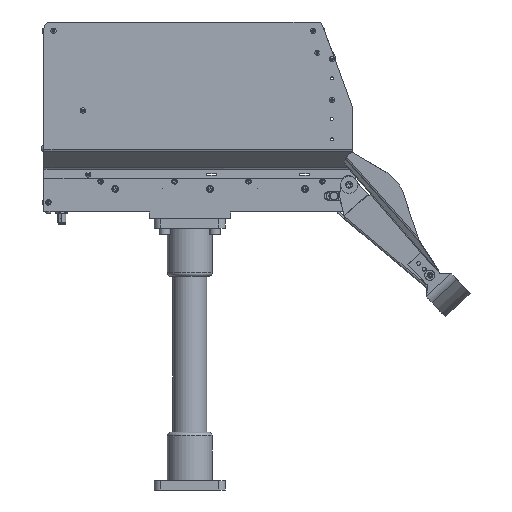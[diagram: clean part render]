
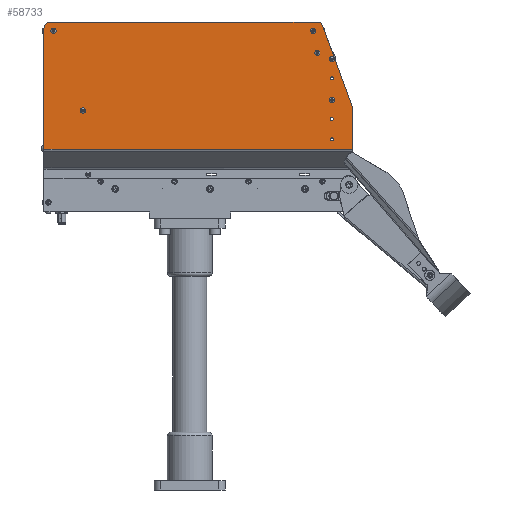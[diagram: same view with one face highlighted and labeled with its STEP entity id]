
A CAD part, left-side view. The second image highlights one B-rep face of the part: STEP entity #58733.
In plain terms, the highlighted planar face has unit normal (-1, 0, 0).
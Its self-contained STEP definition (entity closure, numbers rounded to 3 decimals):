
#3414=FACE_BOUND('',#20123,.T.);
#3415=FACE_BOUND('',#20124,.T.);
#3416=FACE_BOUND('',#20125,.T.);
#3417=FACE_BOUND('',#20126,.T.);
#3418=FACE_BOUND('',#20127,.T.);
#3419=FACE_BOUND('',#20128,.T.);
#3420=FACE_BOUND('',#20129,.T.);
#3421=FACE_BOUND('',#20130,.T.);
#3422=FACE_BOUND('',#20131,.T.);
#4993=PLANE('',#64242);
#8237=LINE('',#103086,#11989);
#8239=LINE('',#103094,#11991);
#8241=LINE('',#103098,#11993);
#8243=LINE('',#103102,#11995);
#8249=LINE('',#103150,#12001);
#11989=VECTOR('',#77511,10.);
#11991=VECTOR('',#77523,10.);
#11993=VECTOR('',#77527,3.26);
#11995=VECTOR('',#77531,10.);
#12001=VECTOR('',#77567,10.);
#16261=FACE_OUTER_BOUND('',#20122,.T.);
#20122=EDGE_LOOP('',(#51565,#51566,#51567,#51568,#51569,#51570,#51571));
#20123=EDGE_LOOP('',(#51572));
#20124=EDGE_LOOP('',(#51573,#51574));
#20125=EDGE_LOOP('',(#51575));
#20126=EDGE_LOOP('',(#51576));
#20127=EDGE_LOOP('',(#51577));
#20128=EDGE_LOOP('',(#51578));
#20129=EDGE_LOOP('',(#51579));
#20130=EDGE_LOOP('',(#51580));
#20131=EDGE_LOOP('',(#51581));
#21631=CIRCLE('',#60462,2.027);
#21690=CIRCLE('',#60582,2.027);
#23335=CIRCLE('',#64236,2.25);
#23338=CIRCLE('',#64241,9.);
#23339=CIRCLE('',#64243,9.);
#23340=CIRCLE('',#64244,2.25);
#23341=CIRCLE('',#64245,3.8);
#23342=CIRCLE('',#64246,3.8);
#23343=CIRCLE('',#64247,3.8);
#23344=CIRCLE('',#64248,2.25);
#23345=CIRCLE('',#64249,2.25);
#23346=CIRCLE('',#64250,2.25);
#24783=VERTEX_POINT('',#87149);
#24907=VERTEX_POINT('',#87598);
#24908=VERTEX_POINT('',#87606);
#28477=VERTEX_POINT('',#103082);
#28478=VERTEX_POINT('',#103084);
#28479=VERTEX_POINT('',#103088);
#28480=VERTEX_POINT('',#103096);
#28481=VERTEX_POINT('',#103100);
#28487=VERTEX_POINT('',#103134);
#28490=VERTEX_POINT('',#103144);
#28491=VERTEX_POINT('',#103148);
#28492=VERTEX_POINT('',#103152);
#28493=VERTEX_POINT('',#103154);
#28494=VERTEX_POINT('',#103156);
#28495=VERTEX_POINT('',#103158);
#28496=VERTEX_POINT('',#103160);
#28497=VERTEX_POINT('',#103162);
#30784=EDGE_CURVE('',#24783,#24783,#21631,.T.);
#30967=EDGE_CURVE('',#24908,#24907,#21690,.T.);
#36473=EDGE_CURVE('',#28478,#28477,#8237,.T.);
#36477=EDGE_CURVE('',#28478,#28479,#8239,.T.);
#36479=EDGE_CURVE('',#28480,#28479,#8241,.T.);
#36481=EDGE_CURVE('',#28480,#28481,#8243,.T.);
#36490=EDGE_CURVE('',#28487,#28487,#23335,.T.);
#36495=EDGE_CURVE('',#28490,#28481,#23338,.T.);
#36496=EDGE_CURVE('',#28477,#28491,#23339,.T.);
#36497=EDGE_CURVE('',#28491,#28490,#8249,.T.);
#36498=EDGE_CURVE('',#24907,#24908,#23340,.T.);
#36499=EDGE_CURVE('',#28492,#28492,#23341,.T.);
#36500=EDGE_CURVE('',#28493,#28493,#23342,.T.);
#36501=EDGE_CURVE('',#28494,#28494,#23343,.T.);
#36502=EDGE_CURVE('',#28495,#28495,#23344,.T.);
#36503=EDGE_CURVE('',#28496,#28496,#23345,.T.);
#36504=EDGE_CURVE('',#28497,#28497,#23346,.T.);
#51565=ORIENTED_EDGE('',*,*,#36496,.F.);
#51566=ORIENTED_EDGE('',*,*,#36473,.F.);
#51567=ORIENTED_EDGE('',*,*,#36477,.T.);
#51568=ORIENTED_EDGE('',*,*,#36479,.F.);
#51569=ORIENTED_EDGE('',*,*,#36481,.T.);
#51570=ORIENTED_EDGE('',*,*,#36495,.F.);
#51571=ORIENTED_EDGE('',*,*,#36497,.F.);
#51572=ORIENTED_EDGE('',*,*,#30784,.T.);
#51573=ORIENTED_EDGE('',*,*,#30967,.T.);
#51574=ORIENTED_EDGE('',*,*,#36498,.T.);
#51575=ORIENTED_EDGE('',*,*,#36499,.T.);
#51576=ORIENTED_EDGE('',*,*,#36500,.T.);
#51577=ORIENTED_EDGE('',*,*,#36501,.T.);
#51578=ORIENTED_EDGE('',*,*,#36502,.T.);
#51579=ORIENTED_EDGE('',*,*,#36503,.T.);
#51580=ORIENTED_EDGE('',*,*,#36504,.T.);
#51581=ORIENTED_EDGE('',*,*,#36490,.T.);
#58733=ADVANCED_FACE('',(#16261,#3414,#3415,#3416,#3417,#3418,#3419,#3420,
#3421,#3422),#4993,.F.);
#60462=AXIS2_PLACEMENT_3D('',#87150,#67740,#67741);
#60582=AXIS2_PLACEMENT_3D('',#87607,#68089,#68090);
#64236=AXIS2_PLACEMENT_3D('',#103136,#77549,#77550);
#64241=AXIS2_PLACEMENT_3D('',#103146,#77561,#77562);
#64242=AXIS2_PLACEMENT_3D('',#103147,#77563,#77564);
#64243=AXIS2_PLACEMENT_3D('',#103149,#77565,#77566);
#64244=AXIS2_PLACEMENT_3D('',#103151,#77568,#77569);
#64245=AXIS2_PLACEMENT_3D('',#103153,#77570,#77571);
#64246=AXIS2_PLACEMENT_3D('',#103155,#77572,#77573);
#64247=AXIS2_PLACEMENT_3D('',#103157,#77574,#77575);
#64248=AXIS2_PLACEMENT_3D('',#103159,#77576,#77577);
#64249=AXIS2_PLACEMENT_3D('',#103161,#77578,#77579);
#64250=AXIS2_PLACEMENT_3D('',#103163,#77580,#77581);
#67740=DIRECTION('center_axis',(1.,0.,0.));
#67741=DIRECTION('ref_axis',(0.,0.,-1.));
#68089=DIRECTION('center_axis',(1.,0.,0.));
#68090=DIRECTION('ref_axis',(0.,0.,-1.));
#77511=DIRECTION('',(0.,0.,1.));
#77523=DIRECTION('',(0.,-1.,0.));
#77527=DIRECTION('',(0.,0.,-1.));
#77531=DIRECTION('',(0.,0.342,0.94));
#77549=DIRECTION('center_axis',(1.,0.,0.));
#77550=DIRECTION('ref_axis',(0.,-1.,0.));
#77561=DIRECTION('center_axis',(1.,0.,0.));
#77562=DIRECTION('ref_axis',(0.,-0.574,0.819));
#77563=DIRECTION('center_axis',(1.,0.,0.));
#77564=DIRECTION('ref_axis',(0.,0.,
-1.));
#77565=DIRECTION('center_axis',(1.,0.,0.));
#77566=DIRECTION('ref_axis',(0.,0.707,0.707));
#77567=DIRECTION('',(0.,-1.,0.));
#77568=DIRECTION('center_axis',(1.,0.,0.));
#77569=DIRECTION('ref_axis',(0.,-1.,0.));
#77570=DIRECTION('center_axis',(1.,0.,0.));
#77571=DIRECTION('ref_axis',(0.,0.988,0.154));
#77572=DIRECTION('center_axis',(1.,0.,0.));
#77573=DIRECTION('ref_axis',(0.,1.,0.));
#77574=DIRECTION('center_axis',(1.,0.,0.));
#77575=DIRECTION('ref_axis',(0.,0.,-1.));
#77576=DIRECTION('center_axis',(1.,0.,0.));
#77577=DIRECTION('ref_axis',(0.,-1.,0.));
#77578=DIRECTION('center_axis',(1.,0.,0.));
#77579=DIRECTION('ref_axis',(0.,-1.,0.));
#77580=DIRECTION('center_axis',(1.,0.,0.));
#77581=DIRECTION('ref_axis',(0.,-1.,0.));
#87149=CARTESIAN_POINT('',(-146.316,-209.389,227.071));
#87150=CARTESIAN_POINT('Origin',(-146.316,-209.54,225.05));
#87598=CARTESIAN_POINT('',(-146.316,-207.635,165.741));
#87606=CARTESIAN_POINT('',(-146.316,-211.415,165.82));
#87607=CARTESIAN_POINT('Origin',(-146.316,-209.54,165.05));
#103082=CARTESIAN_POINT('',(-146.316,215.,270.951));
#103084=CARTESIAN_POINT('',(-146.316,215.,92.318));
#103086=CARTESIAN_POINT('',(-146.316,215.,92.318));
#103088=CARTESIAN_POINT('',(-146.316,-239.54,92.318));
#103094=CARTESIAN_POINT('',(-146.316,-12.27,92.318));
#103096=CARTESIAN_POINT('',(-146.316,-239.54,154.75));
#103098=CARTESIAN_POINT('',(-146.316,-239.54,82.077));
#103100=CARTESIAN_POINT('',(-146.316,-196.126,274.029));
#103102=CARTESIAN_POINT('',(-146.316,-224.208,196.875));
#103134=CARTESIAN_POINT('',(-146.316,203.25,267.));
#103136=CARTESIAN_POINT('Origin',(-146.316,201.,267.));
#103144=CARTESIAN_POINT('',(-146.316,-187.669,279.951));
#103146=CARTESIAN_POINT('Origin',(-146.316,-187.669,270.951));
#103147=CARTESIAN_POINT('Origin',(-146.316,-12.27,184.428));
#103148=CARTESIAN_POINT('',(-146.316,206.,279.951));
#103149=CARTESIAN_POINT('Origin',(-146.316,206.,270.951));
#103150=CARTESIAN_POINT('',(-146.316,215.,279.951));
#103151=CARTESIAN_POINT('Origin',(-146.316,-209.5,167.));
#103152=CARTESIAN_POINT('',(-146.316,153.746,148.913));
#103153=CARTESIAN_POINT('Origin',(-146.316,157.5,149.5));
#103154=CARTESIAN_POINT('',(-146.316,-191.8,234.401));
#103155=CARTESIAN_POINT('Origin',(-146.316,-188.,234.401));
#103156=CARTESIAN_POINT('',(-146.316,-182.,270.85));
#103157=CARTESIAN_POINT('Origin',(-146.316,-182.,267.05));
#103158=CARTESIAN_POINT('',(-146.316,-207.25,137.));
#103159=CARTESIAN_POINT('Origin',(-146.316,-209.5,137.));
#103160=CARTESIAN_POINT('',(-146.316,-207.25,197.));
#103161=CARTESIAN_POINT('Origin',(-146.316,-209.5,197.));
#103162=CARTESIAN_POINT('',(-146.316,-207.25,107.));
#103163=CARTESIAN_POINT('Origin',(-146.316,-209.5,107.));
